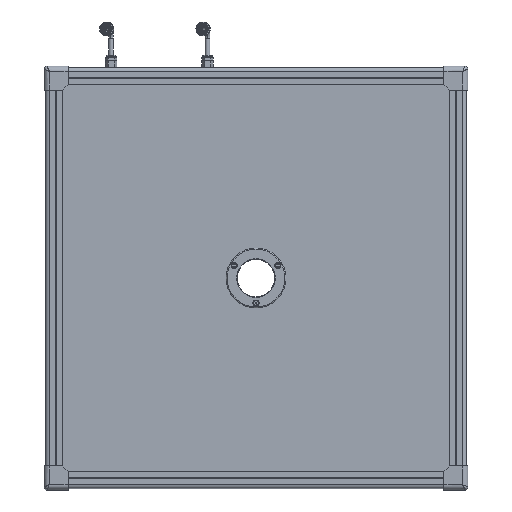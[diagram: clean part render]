
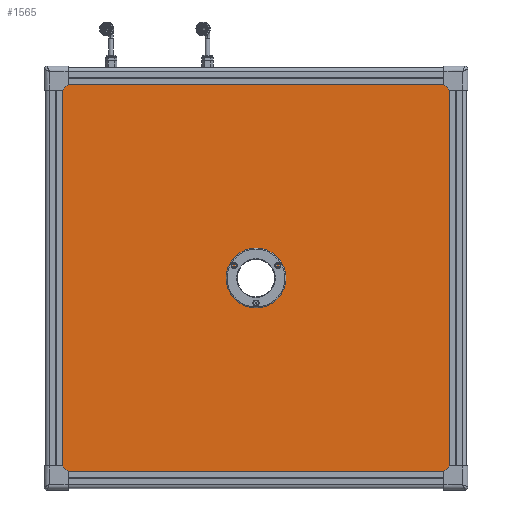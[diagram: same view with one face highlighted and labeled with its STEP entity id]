
A CAD part, front view. The second image highlights one B-rep face of the part: STEP entity #1565.
In plain terms, the highlighted planar face has unit normal (0, -1, 0).
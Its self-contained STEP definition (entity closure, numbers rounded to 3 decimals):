
#1249 = AXIS2_PLACEMENT_3D ( 'NONE', #16083, #16099, #16100 ) ;
#1565 = ADVANCED_FACE ( 'NONE', ( #6341, #6350 ), #16090, .T. ) ;
#3617 = AXIS2_PLACEMENT_3D ( 'NONE', #4880, #4884, #4885 ) ;
#3795 = AXIS2_PLACEMENT_3D ( 'NONE', #18098, #18108, #18110 ) ;
#4880 = CARTESIAN_POINT ( 'NONE',  ( 0., 2.5, 0. ) ) ;
#4884 = DIRECTION ( 'NONE',  ( 0., -1., 0. ) ) ;
#4885 = DIRECTION ( 'NONE',  ( 0., 0., -1. ) ) ;
#6341 = FACE_BOUND ( 'NONE', #6937, .T. ) ;
#6350 = FACE_OUTER_BOUND ( 'NONE', #6910, .T. ) ;
#6910 = EDGE_LOOP ( 'NONE', ( #9968, #9967, #9966, #9965, #9964, #9963, #9962, #9961, #9960, #9959, #9958, #9957 ) ) ;
#6937 = EDGE_LOOP ( 'NONE', ( #9970, #9969 ) ) ;
#9957 = ORIENTED_EDGE ( 'NONE', *, *, #19031, .F. ) ;
#9958 = ORIENTED_EDGE ( 'NONE', *, *, #18985, .T. ) ;
#9959 = ORIENTED_EDGE ( 'NONE', *, *, #19032, .F. ) ;
#9960 = ORIENTED_EDGE ( 'NONE', *, *, #19029, .F. ) ;
#9961 = ORIENTED_EDGE ( 'NONE', *, *, #19008, .T. ) ;
#9962 = ORIENTED_EDGE ( 'NONE', *, *, #19030, .F. ) ;
#9963 = ORIENTED_EDGE ( 'NONE', *, *, #19010, .F. ) ;
#9964 = ORIENTED_EDGE ( 'NONE', *, *, #19016, .T. ) ;
#9965 = ORIENTED_EDGE ( 'NONE', *, *, #19025, .F. ) ;
#9966 = ORIENTED_EDGE ( 'NONE', *, *, #19024, .F. ) ;
#9967 = ORIENTED_EDGE ( 'NONE', *, *, #19004, .T. ) ;
#9968 = ORIENTED_EDGE ( 'NONE', *, *, #19021, .F. ) ;
#9969 = ORIENTED_EDGE ( 'NONE', *, *, #19019, .F. ) ;
#9970 = ORIENTED_EDGE ( 'NONE', *, *, #14624, .F. ) ;
#10585 = CIRCLE ( 'NONE', #3617, 22.3 ) ;
#11645 = CARTESIAN_POINT ( 'NONE',  ( -200.25, 2.5, -199.75 ) ) ;
#11679 = CARTESIAN_POINT ( 'NONE',  ( 200.25, 2.5, -199.75 ) ) ;
#11681 = CARTESIAN_POINT ( 'NONE',  ( -199.75, 2.5, -200.25 ) ) ;
#11695 = CARTESIAN_POINT ( 'NONE',  ( 199.75, 2.5, -199.75 ) ) ;
#11701 = CARTESIAN_POINT ( 'NONE',  ( -199.75, 2.5, -199.75 ) ) ;
#11706 = CARTESIAN_POINT ( 'NONE',  ( -199.75, 2.5, 199.75 ) ) ;
#11776 = CARTESIAN_POINT ( 'NONE',  ( 199.75, 2.5, 199.75 ) ) ;
#11781 = CARTESIAN_POINT ( 'NONE',  ( -199.75, 2.5, 200.25 ) ) ;
#11787 = CARTESIAN_POINT ( 'NONE',  ( 200.25, 2.5, 199.75 ) ) ;
#11822 = CARTESIAN_POINT ( 'NONE',  ( 199.75, 2.5, -200.25 ) ) ;
#11841 = CARTESIAN_POINT ( 'NONE',  ( 199.75, 2.5, 200.25 ) ) ;
#11852 = CARTESIAN_POINT ( 'NONE',  ( -200.25, 2.5, 199.75 ) ) ;
#11973 = CARTESIAN_POINT ( 'NONE',  ( 0., 2.5, -22.3 ) ) ;
#12115 = CARTESIAN_POINT ( 'NONE',  ( 0., 2.5, 22.3 ) ) ;
#14624 = EDGE_CURVE ( 'NONE', #15288, #15146, #10585, .T. ) ;
#14930 = VERTEX_POINT ( 'NONE', #11645 ) ;
#14951 = VERTEX_POINT ( 'NONE', #11679 ) ;
#14952 = VERTEX_POINT ( 'NONE', #11681 ) ;
#14960 = VERTEX_POINT ( 'NONE', #11695 ) ;
#14963 = VERTEX_POINT ( 'NONE', #11701 ) ;
#14966 = VERTEX_POINT ( 'NONE', #11706 ) ;
#15006 = VERTEX_POINT ( 'NONE', #11776 ) ;
#15009 = VERTEX_POINT ( 'NONE', #11781 ) ;
#15012 = VERTEX_POINT ( 'NONE', #11787 ) ;
#15033 = VERTEX_POINT ( 'NONE', #11822 ) ;
#15043 = VERTEX_POINT ( 'NONE', #11841 ) ;
#15049 = VERTEX_POINT ( 'NONE', #11852 ) ;
#15146 = VERTEX_POINT ( 'NONE', #11973 ) ;
#15288 = VERTEX_POINT ( 'NONE', #12115 ) ;
#16083 = CARTESIAN_POINT ( 'NONE',  ( -200.25, 2.5, 200.25 ) ) ;
#16090 = PLANE ( 'NONE',  #1249 ) ;
#16099 = DIRECTION ( 'NONE',  ( 0., -1., 0. ) ) ;
#16100 = DIRECTION ( 'NONE',  ( 0., 0., -1. ) ) ;
#16738 = LINE ( 'NONE', #18057, #16739 ) ;
#16739 = VECTOR ( 'NONE', #18058, 1000. ) ;
#16744 = LINE ( 'NONE', #18079, #16772 ) ;
#16760 = LINE ( 'NONE', #18081, #16761 ) ;
#16761 = VECTOR ( 'NONE', #18082, 1000. ) ;
#16766 = LINE ( 'NONE', #18089, #16767 ) ;
#16767 = VECTOR ( 'NONE', #18090, 1000. ) ;
#16768 = LINE ( 'NONE', #18091, #16769 ) ;
#16769 = VECTOR ( 'NONE', #18093, 1000. ) ;
#16772 = VECTOR ( 'NONE', #18100, 1000. ) ;
#16773 = LINE ( 'NONE', #18115, #16778 ) ;
#16778 = VECTOR ( 'NONE', #18116, 1000. ) ;
#16779 = CIRCLE ( 'NONE', #3795, 22.3 ) ;
#16781 = LINE ( 'NONE', #18118, #16782 ) ;
#16782 = VECTOR ( 'NONE', #18120, 1000. ) ;
#16783 = LINE ( 'NONE', #18121, #16784 ) ;
#16784 = VECTOR ( 'NONE', #18122, 1000. ) ;
#16785 = LINE ( 'NONE', #18124, #16786 ) ;
#16786 = VECTOR ( 'NONE', #18126, 1000. ) ;
#16787 = LINE ( 'NONE', #18127, #16788 ) ;
#16788 = VECTOR ( 'NONE', #18128, 1000. ) ;
#16789 = LINE ( 'NONE', #18130, #16790 ) ;
#16790 = VECTOR ( 'NONE', #18132, 1000. ) ;
#16791 = LINE ( 'NONE', #18133, #16792 ) ;
#16792 = VECTOR ( 'NONE', #18134, 1000. ) ;
#18057 = CARTESIAN_POINT ( 'NONE',  ( 200.25, 2.5, -200.25 ) ) ;
#18058 = DIRECTION ( 'NONE',  ( 0., 0., 1. ) ) ;
#18079 = CARTESIAN_POINT ( 'NONE',  ( -200.25, 2.5, 200.25 ) ) ;
#18081 = CARTESIAN_POINT ( 'NONE',  ( 200.25, 2.5, 200.25 ) ) ;
#18082 = DIRECTION ( 'NONE',  ( -1., 0., 0. ) ) ;
#18089 = CARTESIAN_POINT ( 'NONE',  ( -200.25, 2.5, -200.25 ) ) ;
#18090 = DIRECTION ( 'NONE',  ( 1., 0., 0. ) ) ;
#18091 = CARTESIAN_POINT ( 'NONE',  ( -200.25, 2.5, -199.75 ) ) ;
#18093 = DIRECTION ( 'NONE',  ( -1., 0., 0. ) ) ;
#18098 = CARTESIAN_POINT ( 'NONE',  ( 0., 2.5, 0. ) ) ;
#18100 = DIRECTION ( 'NONE',  ( 0., 0., -1. ) ) ;
#18108 = DIRECTION ( 'NONE',  ( 0., -1., 0. ) ) ;
#18110 = DIRECTION ( 'NONE',  ( 0., 0., -1. ) ) ;
#18115 = CARTESIAN_POINT ( 'NONE',  ( 199.75, 2.5, 200.25 ) ) ;
#18116 = DIRECTION ( 'NONE',  ( 0., 0., -1. ) ) ;
#18118 = CARTESIAN_POINT ( 'NONE',  ( -199.75, 2.5, 200.25 ) ) ;
#18120 = DIRECTION ( 'NONE',  ( 0., 0., 1. ) ) ;
#18121 = CARTESIAN_POINT ( 'NONE',  ( -200.25, 2.5, 199.75 ) ) ;
#18122 = DIRECTION ( 'NONE',  ( 1., 0., 0. ) ) ;
#18124 = CARTESIAN_POINT ( 'NONE',  ( 199.75, 2.5, 200.25 ) ) ;
#18126 = DIRECTION ( 'NONE',  ( 0., 0., -1. ) ) ;
#18127 = CARTESIAN_POINT ( 'NONE',  ( -199.75, 2.5, 200.25 ) ) ;
#18128 = DIRECTION ( 'NONE',  ( 0., 0., 1. ) ) ;
#18130 = CARTESIAN_POINT ( 'NONE',  ( -200.25, 2.5, 199.75 ) ) ;
#18132 = DIRECTION ( 'NONE',  ( 1., 0., 0. ) ) ;
#18133 = CARTESIAN_POINT ( 'NONE',  ( -200.25, 2.5, -199.75 ) ) ;
#18134 = DIRECTION ( 'NONE',  ( -1., 0., 0. ) ) ;
#18985 = EDGE_CURVE ( 'NONE', #14951, #15012, #16738, .T. ) ;
#19004 = EDGE_CURVE ( 'NONE', #15043, #15009, #16760, .T. ) ;
#19008 = EDGE_CURVE ( 'NONE', #14952, #15033, #16766, .T. ) ;
#19010 = EDGE_CURVE ( 'NONE', #14963, #14930, #16768, .T. ) ;
#19016 = EDGE_CURVE ( 'NONE', #15049, #14930, #16744, .T. ) ;
#19019 = EDGE_CURVE ( 'NONE', #15146, #15288, #16779, .T. ) ;
#19021 = EDGE_CURVE ( 'NONE', #15043, #15006, #16773, .T. ) ;
#19024 = EDGE_CURVE ( 'NONE', #14966, #15009, #16781, .T. ) ;
#19025 = EDGE_CURVE ( 'NONE', #15049, #14966, #16783, .T. ) ;
#19029 = EDGE_CURVE ( 'NONE', #14960, #15033, #16785, .T. ) ;
#19030 = EDGE_CURVE ( 'NONE', #14952, #14963, #16787, .T. ) ;
#19031 = EDGE_CURVE ( 'NONE', #15006, #15012, #16789, .T. ) ;
#19032 = EDGE_CURVE ( 'NONE', #14951, #14960, #16791, .T. ) ;
